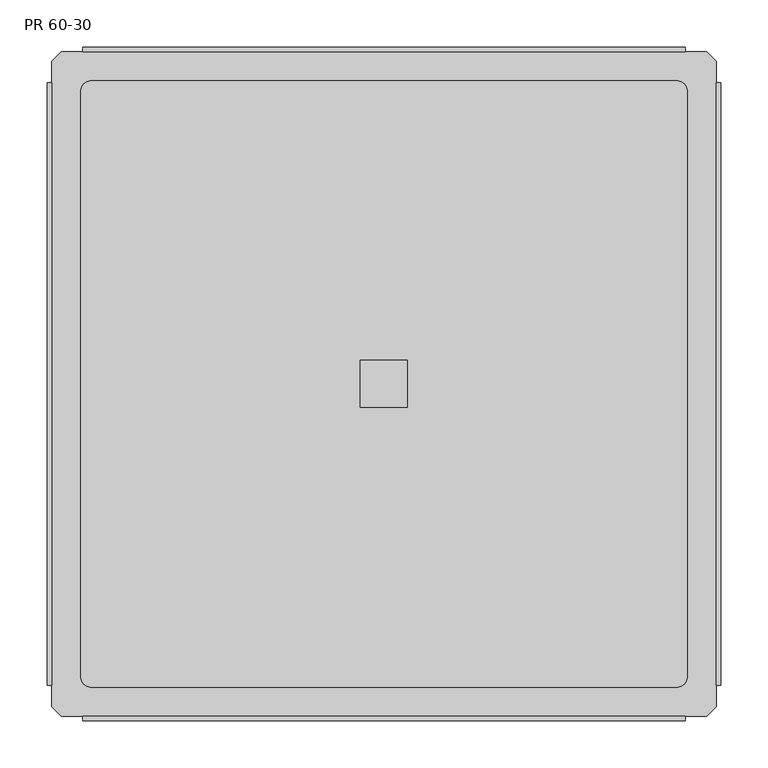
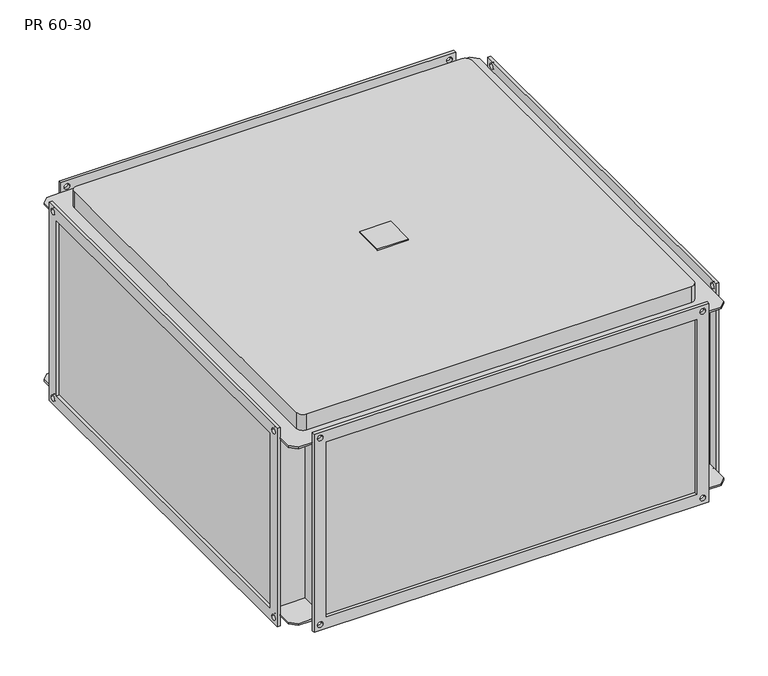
"""IFC4 building model written with IfcOpenShell, lengths in millimetres: proxy geometry, KORF_Рекуператор_Пластинчатый_PR : PR 60-30."""

from ifc_helpers import new_model, si_unit, point, frame, frame_2d, origin, place, context, project, spatial, polyline, circle_curve, trimmed, segment, composite_curve, outline, extrude, source, transform, mapped, element, save
from ifc_brep_helpers import plane_surface, cylinder_surface, revolved_surface, advanced_brep


def pr_60_30_fce1e4e2(model_context):
    return source(origin(), model_context, "Body", "SolidModel", [
        extrude(outline(polyline([(333.0, -25.0), (333.0, 25.0), (383.0, 25.0), (383.0, -25.0), (333.0, -25.0)])), frame((0.0, 0.0, 180.0), z_axis=(0.0, 0.0, 1.0), x_axis=(1.0, 0.0, 0.0)), (0.0, 0.0, 1.0), 2.0),
        advanced_brep(
        [(658.0, -353.0, -150.0), (658.0, -353.0, 150.0), (58.0, -353.0, 150.0), (58.0, -353.0, -150.0), (658.0, 353.0, 150.0), (658.0, 353.0, -150.0), (58.0, 353.0, -150.0), (58.0, 353.0, 150.0), (15.0, 353.0, 153.0), (5.0, 343.0, 153.0), (5.0, -343.0, 153.0), (15.0, -353.0, 153.0), (38.0, -353.0, 153.0), (678.0, -353.0, 153.0), (701.0, -353.0, 153.0), (711.0, -343.0, 153.0), (711.0, 343.0, 153.0), (701.0, 353.0, 153.0), (678.0, 353.0, 153.0), (38.0, 353.0, 153.0), (46.0, 322.0, 153.0), (670.0, 322.0, 153.0), (680.0, 312.0, 153.0), (680.0, -312.0, 153.0), (670.0, -322.0, 153.0), (46.0, -322.0, 153.0), (36.0, -312.0, 153.0), (36.0, 312.0, 153.0), (55.0, -353.0, 150.0), (55.0, -303.0, 150.0), (55.0, -303.0, -150.0), (55.0, -353.0, -150.0), (55.0, 303.0, 150.0), (55.0, 353.0, 150.0), (55.0, 353.0, -150.0), (55.0, 303.0, -150.0), (5.0, 343.0, -153.0), (15.0, 353.0, -153.0), (38.0, 353.0, -153.0), (678.0, 353.0, -153.0), (701.0, 353.0, -153.0), (711.0, 343.0, -153.0), (711.0, -343.0, -153.0), (701.0, -353.0, -153.0), (678.0, -353.0, -153.0), (38.0, -353.0, -153.0), (15.0, -353.0, -153.0), (5.0, -343.0, -153.0), (661.0, -303.0, 150.0), (661.0, -353.0, 150.0), (661.0, -353.0, -150.0), (661.0, -303.0, -150.0), (661.0, 353.0, 150.0), (661.0, 303.0, 150.0), (661.0, 303.0, -150.0), (661.0, 353.0, -150.0), (711.0, 303.0, 150.0), (711.0, 343.0, 150.0), (711.0, -343.0, 150.0), (711.0, -303.0, 150.0), (711.0, -303.0, -150.0), (711.0, -343.0, -150.0), (711.0, 343.0, -150.0), (711.0, 303.0, -150.0), (5.0, 343.0, 150.0), (5.0, 303.0, 150.0), (5.0, 303.0, -150.0), (5.0, 343.0, -150.0), (5.0, -343.0, -150.0), (5.0, -303.0, -150.0), (5.0, -303.0, 150.0), (5.0, -343.0, 150.0), (678.0, 358.0, 170.0), (678.0, 358.0, -170.0), (38.0, 358.0, -170.0), (38.0, 358.0, 170.0), (658.0, 358.0, 150.0), (58.0, 358.0, 150.0), (58.0, 358.0, -150.0), (658.0, 358.0, -150.0), (43.5, 358.0, 160.0), (52.5, 358.0, 160.0), (663.5, 358.0, 160.0), (672.5, 358.0, 160.0), (663.5, 358.0, -160.0), (672.5, 358.0, -160.0), (43.5, 358.0, -160.0), (52.5, 358.0, -160.0), (678.0, 353.0, 170.0), (38.0, 353.0, 170.0), (43.5, 353.0, 160.0), (52.5, 353.0, 160.0), (663.5, 353.0, 160.0), (672.5, 353.0, 160.0), (38.0, 353.0, -170.0), (678.0, 353.0, -170.0), (663.5, 353.0, -160.0), (672.5, 353.0, -160.0), (43.5, 353.0, -160.0), (52.5, 353.0, -160.0), (38.0, 353.0, 150.0), (38.0, 353.0, -150.0), (678.0, 353.0, 150.0), (678.0, 353.0, -150.0), (678.0, -358.0, 170.0), (38.0, -358.0, 170.0), (38.0, -358.0, -170.0), (678.0, -358.0, -170.0), (658.0, -358.0, 150.0), (658.0, -358.0, -150.0), (58.0, -358.0, -150.0), (58.0, -358.0, 150.0), (663.5, -358.0, 160.0), (672.5, -358.0, 160.0), (663.5, -358.0, -160.0), (672.5, -358.0, -160.0), (43.5, -358.0, 160.0), (52.5, -358.0, 160.0), (43.5, -358.0, -160.0), (52.5, -358.0, -160.0), (678.0, -353.0, -170.0), (38.0, -353.0, -170.0), (663.5, -353.0, -160.0), (672.5, -353.0, -160.0), (43.5, -353.0, -160.0), (52.5, -353.0, -160.0), (38.0, -353.0, 170.0), (678.0, -353.0, 170.0), (663.5, -353.0, 160.0), (672.5, -353.0, 160.0), (43.5, -353.0, 160.0), (52.5, -353.0, 160.0), (38.0, -353.0, 150.0), (38.0, -353.0, -150.0), (678.0, -353.0, 150.0), (678.0, -353.0, -150.0), (701.0, -353.0, 150.0), (15.0, 353.0, 150.0), (701.0, 353.0, 150.0), (15.0, -353.0, 150.0), (701.0, 353.0, -150.0), (15.0, -353.0, -150.0), (15.0, 353.0, -150.0), (701.0, -353.0, -150.0), (670.0, 322.0, 180.0), (46.0, 322.0, 180.0), (36.0, 312.0, 180.0), (36.0, -312.0, 180.0), (46.0, -322.0, 180.0), (670.0, -322.0, 180.0), (680.0, -312.0, 180.0), (680.0, 312.0, 180.0)],
        [
            (0, 1),
            (1, 2),
            (2, 3),
            (3, 0),
            (4, 5),
            (5, 6),
            (6, 7),
            (7, 4),
            (8, 9),
            (9, 10),
            (10, 11),
            (11, 12),
            (12, 13),
            (13, 14),
            (14, 15),
            (15, 16),
            (16, 17),
            (17, 18),
            (18, 19),
            (19, 8),
            (20, 21),
            (21, 22, circle_curve(frame((670.0, 312.0, 153.0), z_axis=(0.0, 0.0, -1.0), x_axis=(1.0, 0.0, 0.0)), 10.0)),
            (22, 23),
            (23, 24, circle_curve(frame((670.0, -312.0, 153.0), z_axis=(0.0, 0.0, -1.0), x_axis=(1.0, 0.0, 0.0)), 10.0)),
            (24, 25),
            (25, 26, circle_curve(frame((46.0, -312.0, 153.0), z_axis=(0.0, 0.0, -1.0), x_axis=(1.0, 0.0, 0.0)), 10.0)),
            (26, 27),
            (27, 20, circle_curve(frame((46.0, 312.0, 153.0), z_axis=(0.0, 0.0, -1.0), x_axis=(1.0, 0.0, 0.0)), 10.0)),
            (28, 29),
            (29, 30),
            (30, 31),
            (31, 28),
            (32, 33),
            (33, 34),
            (34, 35),
            (35, 32),
            (36, 37),
            (37, 38),
            (38, 39),
            (39, 40),
            (40, 41),
            (41, 42),
            (42, 43),
            (43, 44),
            (44, 45),
            (45, 46),
            (46, 47),
            (47, 36),
            (48, 49),
            (49, 50),
            (50, 51),
            (51, 48),
            (52, 53),
            (53, 54),
            (54, 55),
            (55, 52),
            (56, 57),
            (57, 16),
            (15, 58),
            (58, 59),
            (59, 60),
            (60, 61),
            (61, 42),
            (41, 62),
            (62, 63),
            (63, 56),
            (64, 65),
            (65, 66),
            (66, 67),
            (67, 36),
            (47, 68),
            (68, 69),
            (69, 70),
            (70, 71),
            (71, 10),
            (9, 64),
            (29, 70),
            (69, 30),
            (59, 48),
            (51, 60),
            (65, 32),
            (35, 66),
            (53, 56),
            (63, 54),
            (72, 73),
            (73, 74),
            (74, 75),
            (75, 72),
            (76, 77),
            (77, 78),
            (78, 79),
            (79, 76),
            (80, 81, circle_curve(frame((48.0, 358.0, 160.0), z_axis=(0.0, -1.0, 0.0), x_axis=(1.0, 0.0, 0.0)), 4.5)),
            (81, 80, circle_curve(frame((48.0, 358.0, 160.0), z_axis=(0.0, -1.0, 0.0), x_axis=(1.0, 0.0, 0.0)), 4.5)),
            (82, 83, circle_curve(frame((668.0, 358.0, 160.0), z_axis=(0.0, -1.0, 0.0), x_axis=(1.0, 0.0, 0.0)), 4.5)),
            (83, 82, circle_curve(frame((668.0, 358.0, 160.0), z_axis=(0.0, -1.0, 0.0), x_axis=(1.0, 0.0, 0.0)), 4.5)),
            (84, 85, circle_curve(frame((668.0, 358.0, -160.0), z_axis=(0.0, -1.0, 0.0), x_axis=(1.0, 0.0, 0.0)), 4.5)),
            (85, 84, circle_curve(frame((668.0, 358.0, -160.0), z_axis=(0.0, -1.0, 0.0), x_axis=(1.0, 0.0, 0.0)), 4.5)),
            (86, 87, circle_curve(frame((48.0, 358.0, -160.0), z_axis=(0.0, -1.0, 0.0), x_axis=(1.0, 0.0, 0.0)), 4.5)),
            (87, 86, circle_curve(frame((48.0, 358.0, -160.0), z_axis=(0.0, -1.0, 0.0), x_axis=(1.0, 0.0, 0.0)), 4.5)),
            (88, 89),
            (89, 19),
            (18, 88),
            (90, 91, circle_curve(frame((48.0, 353.0, 160.0), z_axis=(0.0, 1.0, 0.0), x_axis=(1.0, 0.0, 0.0)), 4.5)),
            (91, 90, circle_curve(frame((48.0, 353.0, 160.0), z_axis=(0.0, 1.0, 0.0), x_axis=(1.0, 0.0, 0.0)), 4.5)),
            (92, 93, circle_curve(frame((668.0, 353.0, 160.0), z_axis=(0.0, 1.0, 0.0), x_axis=(1.0, 0.0, 0.0)), 4.5)),
            (93, 92, circle_curve(frame((668.0, 353.0, 160.0), z_axis=(0.0, 1.0, 0.0), x_axis=(1.0, 0.0, 0.0)), 4.5)),
            (94, 95),
            (95, 39),
            (38, 94),
            (96, 97, circle_curve(frame((668.0, 353.0, -160.0), z_axis=(0.0, 1.0, 0.0), x_axis=(1.0, 0.0, 0.0)), 4.5)),
            (97, 96, circle_curve(frame((668.0, 353.0, -160.0), z_axis=(0.0, 1.0, 0.0), x_axis=(1.0, 0.0, 0.0)), 4.5)),
            (98, 99, circle_curve(frame((48.0, 353.0, -160.0), z_axis=(0.0, 1.0, 0.0), x_axis=(1.0, 0.0, 0.0)), 4.5)),
            (99, 98, circle_curve(frame((48.0, 353.0, -160.0), z_axis=(0.0, 1.0, 0.0), x_axis=(1.0, 0.0, 0.0)), 4.5)),
            (33, 100),
            (100, 101),
            (101, 34),
            (102, 52),
            (55, 103),
            (103, 102),
            (75, 89),
            (88, 72),
            (74, 94),
            (38, 101),
            (100, 19),
            (73, 95),
            (18, 102),
            (103, 39),
            (79, 5),
            (4, 76),
            (78, 6),
            (77, 7),
            (104, 105),
            (105, 106),
            (106, 107),
            (107, 104),
            (108, 109),
            (109, 110),
            (110, 111),
            (111, 108),
            (112, 113, circle_curve(frame((668.0, -358.0, 160.0), z_axis=(0.0, 1.0, 0.0), x_axis=(1.0, 0.0, 0.0)), 4.5)),
            (113, 112, circle_curve(frame((668.0, -358.0, 160.0), z_axis=(0.0, 1.0, 0.0), x_axis=(1.0, 0.0, 0.0)), 4.5)),
            (114, 115, circle_curve(frame((668.0, -358.0, -160.0), z_axis=(0.0, 1.0, 0.0), x_axis=(1.0, 0.0, 0.0)), 4.5)),
            (115, 114, circle_curve(frame((668.0, -358.0, -160.0), z_axis=(0.0, 1.0, 0.0), x_axis=(1.0, 0.0, 0.0)), 4.5)),
            (116, 117, circle_curve(frame((48.0, -358.0, 160.0), z_axis=(0.0, 1.0, 0.0), x_axis=(1.0, 0.0, 0.0)), 4.5)),
            (117, 116, circle_curve(frame((48.0, -358.0, 160.0), z_axis=(0.0, 1.0, 0.0), x_axis=(1.0, 0.0, 0.0)), 4.5)),
            (118, 119, circle_curve(frame((48.0, -358.0, -160.0), z_axis=(0.0, 1.0, 0.0), x_axis=(1.0, 0.0, 0.0)), 4.5)),
            (119, 118, circle_curve(frame((48.0, -358.0, -160.0), z_axis=(0.0, 1.0, 0.0), x_axis=(1.0, 0.0, 0.0)), 4.5)),
            (120, 121),
            (121, 45),
            (44, 120),
            (122, 123, circle_curve(frame((668.0, -353.0, -160.0), z_axis=(0.0, -1.0, 0.0), x_axis=(1.0, 0.0, 0.0)), 4.5)),
            (123, 122, circle_curve(frame((668.0, -353.0, -160.0), z_axis=(0.0, -1.0, 0.0), x_axis=(1.0, 0.0, 0.0)), 4.5)),
            (124, 125, circle_curve(frame((48.0, -353.0, -160.0), z_axis=(0.0, -1.0, 0.0), x_axis=(1.0, 0.0, 0.0)), 4.5)),
            (125, 124, circle_curve(frame((48.0, -353.0, -160.0), z_axis=(0.0, -1.0, 0.0), x_axis=(1.0, 0.0, 0.0)), 4.5)),
            (126, 127),
            (127, 13),
            (12, 126),
            (128, 129, circle_curve(frame((668.0, -353.0, 160.0), z_axis=(0.0, -1.0, 0.0), x_axis=(1.0, 0.0, 0.0)), 4.5)),
            (129, 128, circle_curve(frame((668.0, -353.0, 160.0), z_axis=(0.0, -1.0, 0.0), x_axis=(1.0, 0.0, 0.0)), 4.5)),
            (130, 131, circle_curve(frame((48.0, -353.0, 160.0), z_axis=(0.0, -1.0, 0.0), x_axis=(1.0, 0.0, 0.0)), 4.5)),
            (131, 130, circle_curve(frame((48.0, -353.0, 160.0), z_axis=(0.0, -1.0, 0.0), x_axis=(1.0, 0.0, 0.0)), 4.5)),
            (132, 28),
            (31, 133),
            (133, 132),
            (49, 134),
            (134, 135),
            (135, 50),
            (104, 127),
            (126, 105),
            (12, 132),
            (133, 45),
            (121, 106),
            (120, 107),
            (44, 135),
            (134, 13),
            (108, 1),
            (0, 109),
            (3, 110),
            (2, 111),
            (81, 91),
            (90, 80),
            (83, 93),
            (92, 82),
            (85, 97),
            (96, 84),
            (87, 99),
            (98, 86),
            (112, 128),
            (129, 113),
            (114, 122),
            (123, 115),
            (116, 130),
            (131, 117),
            (118, 124),
            (125, 119),
            (58, 136),
            (136, 134),
            (64, 137),
            (137, 100),
            (138, 57),
            (102, 138),
            (139, 71),
            (132, 139),
            (137, 8),
            (138, 17),
            (139, 11),
            (136, 14),
            (62, 140),
            (140, 103),
            (68, 141),
            (141, 133),
            (142, 67),
            (101, 142),
            (143, 61),
            (135, 143),
            (37, 142),
            (40, 140),
            (46, 141),
            (43, 143),
            (144, 145),
            (145, 146, circle_curve(frame((46.0, 312.0, 180.0), z_axis=(0.0, 0.0, 1.0), x_axis=(1.0, 0.0, 0.0)), 10.0)),
            (146, 147),
            (147, 148, circle_curve(frame((46.0, -312.0, 180.0), z_axis=(0.0, 0.0, 1.0), x_axis=(1.0, 0.0, 0.0)), 10.0)),
            (148, 149),
            (149, 150, circle_curve(frame((670.0, -312.0, 180.0), z_axis=(0.0, 0.0, 1.0), x_axis=(1.0, 0.0, 0.0)), 10.0)),
            (150, 151),
            (151, 144, circle_curve(frame((670.0, 312.0, 180.0), z_axis=(0.0, 0.0, 1.0), x_axis=(1.0, 0.0, 0.0)), 10.0)),
            (144, 21),
            (20, 145),
            (27, 146),
            (26, 147),
            (25, 148),
            (24, 149),
            (23, 150),
            (22, 151),
        ],
        [
            plane_surface(frame((55.0, -353.0, 153.0), z_axis=(0.0, -1.0, 0.0), x_axis=(-1.0, 0.0, 0.0))),
            plane_surface(frame((55.0, 353.0, 153.0), z_axis=(0.0, 1.0, 0.0), x_axis=(1.0, 0.0, 0.0))),
            plane_surface(frame((661.0, -353.0, 153.0), z_axis=(0.0, 0.0, 1.0), x_axis=(0.0, 1.0, 0.0))),
            plane_surface(frame((55.0, -353.0, 153.0), z_axis=(-1.0, 0.0, 0.0), x_axis=(0.0, 1.0, 0.0))),
            plane_surface(frame((55.0, -353.0, -153.0), z_axis=(0.0, 0.0, -1.0), x_axis=(0.0, 1.0, 0.0))),
            plane_surface(frame((661.0, -353.0, -153.0), z_axis=(1.0, 0.0, 0.0), x_axis=(0.0, 1.0, 0.0))),
            plane_surface(frame((711.0, -303.0, 153.0), z_axis=(1.0, 0.0, 0.0), x_axis=(0.0, 0.0, -1.0))),
            plane_surface(frame((5.0, -303.0, 153.0), z_axis=(-1.0, 0.0, 0.0), x_axis=(0.0, 0.0, 1.0))),
            plane_surface(frame((711.0, -303.0, 153.0), z_axis=(0.0, -1.0, 0.0), x_axis=(-1.0, 0.0, 0.0))),
            plane_surface(frame((711.0, 303.0, -153.0), z_axis=(0.0, 1.0, 0.0), x_axis=(-1.0, 0.0, 0.0))),
            plane_surface(frame((38.0, 358.0, 170.0), z_axis=(0.0, 1.0, 0.0), x_axis=(1.0, 0.0, 0.0))),
            plane_surface(frame((38.0, 353.0, 170.0), z_axis=(0.0, -1.0, 0.0), x_axis=(-1.0, 0.0, 0.0))),
            plane_surface(frame((678.0, 353.0, 170.0), z_axis=(0.0, 0.0, 1.0), x_axis=(0.0, 1.0, 0.0))),
            plane_surface(frame((38.0, 353.0, 170.0), z_axis=(-1.0, 0.0, 0.0), x_axis=(0.0, 1.0, 0.0))),
            plane_surface(frame((38.0, 353.0, -170.0), z_axis=(0.0, 0.0, -1.0), x_axis=(0.0, 1.0, 0.0))),
            plane_surface(frame((678.0, 353.0, -170.0), z_axis=(1.0, 0.0, 0.0), x_axis=(0.0, 1.0, 0.0))),
            plane_surface(frame((658.0, 353.0, 150.0), z_axis=(-1.0, 0.0, 0.0), x_axis=(0.0, 1.0, 0.0))),
            plane_surface(frame((658.0, 353.0, -150.0), z_axis=(0.0, 0.0, 1.0), x_axis=(0.0, 1.0, 0.0))),
            plane_surface(frame((58.0, 353.0, -150.0), z_axis=(1.0, 0.0, 0.0), x_axis=(0.0, 1.0, 0.0))),
            plane_surface(frame((58.0, 353.0, 150.0), z_axis=(0.0, 0.0, -1.0), x_axis=(0.0, 1.0, 0.0))),
            plane_surface(frame((38.0, -358.0, 170.0), z_axis=(0.0, -1.0, 0.0), x_axis=(-1.0, 0.0, 0.0))),
            plane_surface(frame((38.0, -353.0, 170.0), z_axis=(0.0, 1.0, 0.0), x_axis=(1.0, 0.0, 0.0))),
            plane_surface(frame((678.0, -358.0, 170.0), z_axis=(0.0, 0.0, 1.0), x_axis=(0.0, 1.0, 0.0))),
            plane_surface(frame((38.0, -358.0, 170.0), z_axis=(-1.0, 0.0, 0.0), x_axis=(0.0, 1.0, 0.0))),
            plane_surface(frame((38.0, -358.0, -170.0), z_axis=(0.0, 0.0, -1.0), x_axis=(0.0, 1.0, 0.0))),
            plane_surface(frame((678.0, -358.0, -170.0), z_axis=(1.0, 0.0, 0.0), x_axis=(0.0, 1.0, 0.0))),
            plane_surface(frame((658.0, -358.0, 150.0), z_axis=(-1.0, 0.0, 0.0), x_axis=(0.0, 1.0, 0.0))),
            plane_surface(frame((658.0, -358.0, -150.0), z_axis=(0.0, 0.0, 1.0), x_axis=(0.0, 1.0, 0.0))),
            plane_surface(frame((58.0, -358.0, -150.0), z_axis=(1.0, 0.0, 0.0), x_axis=(0.0, 1.0, 0.0))),
            plane_surface(frame((58.0, -358.0, 150.0), z_axis=(0.0, 0.0, -1.0), x_axis=(0.0, 1.0, 0.0))),
            revolved_surface(polyline([(52.5, 358.0, 160.0), (52.5, 353.0, 160.0)]), (48.0, 0.0, 160.0), (0.0, 1.0, 0.0)),
            revolved_surface(polyline([(672.5, 358.0, 160.0), (672.5, 353.0, 160.0)]), (668.0, 0.0, 160.0), (0.0, 1.0, 0.0)),
            revolved_surface(polyline([(672.5, 358.0, -160.0), (672.5, 353.0, -160.0)]), (668.0, 0.0, -160.0), (0.0, 1.0, 0.0)),
            revolved_surface(polyline([(52.5, 358.0, -160.0), (52.5, 353.0, -160.0)]), (48.0, 0.0, -160.0), (0.0, 1.0, 0.0)),
            revolved_surface(polyline([(672.5, -353.0, 160.0), (672.5, -358.0, 160.0)]), (668.0, 0.0, 160.0), (0.0, 1.0, 0.0)),
            revolved_surface(polyline([(672.5, -353.0, -160.0), (672.5, -358.0, -160.0)]), (668.0, 0.0, -160.0), (0.0, 1.0, 0.0)),
            revolved_surface(polyline([(52.5, -353.0, 160.0), (52.5, -358.0, 160.0)]), (48.0, 0.0, 160.0), (0.0, 1.0, 0.0)),
            revolved_surface(polyline([(52.5, -353.0, -160.0), (52.5, -358.0, -160.0)]), (48.0, 0.0, -160.0), (0.0, 1.0, 0.0)),
            plane_surface(frame((55.0, 303.0, 150.0), z_axis=(0.0, 0.0, -1.0), x_axis=(0.0, -1.0, 0.0))),
            plane_surface(frame((55.0, 353.0, 153.0), z_axis=(0.0, 1.0, 0.0), x_axis=(0.0, 0.0, -1.0))),
            plane_surface(frame((15.0, 353.0, 153.0), z_axis=(-0.7071067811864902, 0.707106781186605, 0.0), x_axis=(0.0, 0.0, -1.0))),
            plane_surface(frame((711.0, 343.0, 153.0), z_axis=(0.7071067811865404, 0.7071067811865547, 0.0), x_axis=(0.0, 0.0, -1.0))),
            plane_surface(frame((701.0, 353.0, 153.0), z_axis=(0.0, 1.0, 0.0), x_axis=(0.0, 0.0, -1.0))),
            plane_surface(frame((5.0, -343.0, 153.0), z_axis=(-0.7071067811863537, -0.7071067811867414, 0.0), x_axis=(0.0, 0.0, -1.0))),
            plane_surface(frame((15.0, -353.0, 153.0), z_axis=(0.0, -1.0, 0.0), x_axis=(0.0, 0.0, -1.0))),
            plane_surface(frame((661.0, -353.0, 153.0), z_axis=(0.0, -1.0, 0.0), x_axis=(0.0, 0.0, -1.0))),
            plane_surface(frame((701.0, -353.0, 153.0), z_axis=(0.707106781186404, -0.7071067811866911, 0.0), x_axis=(0.0, 0.0, -1.0))),
            plane_surface(frame((55.0, 303.0, -150.0), z_axis=(0.0, 0.0, 1.0), x_axis=(0.0, 1.0, 0.0))),
            plane_surface(frame((55.0, 353.0, -150.0), z_axis=(0.0, 1.0, 0.0), x_axis=(0.0, 0.0, -1.0))),
            plane_surface(frame((15.0, 353.0, -150.0), z_axis=(-0.7071067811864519, 0.7071067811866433, 0.0), x_axis=(0.0, 0.0, -1.0))),
            plane_surface(frame((711.0, 343.0, -150.0), z_axis=(0.7071067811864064, 0.7071067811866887, 0.0), x_axis=(0.0, 0.0, -1.0))),
            plane_surface(frame((701.0, 353.0, -150.0), z_axis=(0.0, 1.0, 0.0), x_axis=(0.0, 0.0, -1.0))),
            plane_surface(frame((5.0, -343.0, -150.0), z_axis=(-0.7071067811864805, -0.7071067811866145, 0.0), x_axis=(0.0, 0.0, -1.0))),
            plane_surface(frame((15.0, -353.0, -150.0), z_axis=(0.0, -1.0, 0.0), x_axis=(0.0, 0.0, -1.0))),
            plane_surface(frame((661.0, -353.0, -150.0), z_axis=(0.0, -1.0, 0.0), x_axis=(0.0, 0.0, -1.0))),
            plane_surface(frame((701.0, -353.0, -150.0), z_axis=(0.7071067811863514, -0.7071067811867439, 0.0), x_axis=(0.0, 0.0, -1.0))),
            plane_surface(frame((46.0, 322.0, 180.0), z_axis=(0.0, 0.0, 1.0), x_axis=(-1.0, 0.0, 0.0))),
            plane_surface(frame((670.0, 322.0, 180.0), z_axis=(0.0, 1.0, 0.0), x_axis=(0.0, 0.0, -1.0))),
            cylinder_surface(frame((46.0, 312.0, 153.0), z_axis=(0.0, 0.0, 1.0), x_axis=(1.0, 0.0, 0.0)), 10.0),
            plane_surface(frame((36.0, 312.0, 180.0), z_axis=(-1.0, 0.0, 0.0), x_axis=(0.0, 0.0, -1.0))),
            cylinder_surface(frame((46.0, -312.0, 153.0), z_axis=(0.0, 0.0, 1.0), x_axis=(1.0, 0.0, 0.0)), 10.0),
            plane_surface(frame((46.0, -322.0, 180.0), z_axis=(0.0, -1.0, 0.0), x_axis=(0.0, 0.0, -1.0))),
            cylinder_surface(frame((670.0, -312.0, 153.0), z_axis=(0.0, 0.0, 1.0), x_axis=(1.0, 0.0, 0.0)), 10.0),
            plane_surface(frame((680.0, -312.0, 180.0), z_axis=(1.0, 0.0, 0.0), x_axis=(0.0, 0.0, -1.0))),
            cylinder_surface(frame((670.0, 312.0, 153.0), z_axis=(0.0, 0.0, 1.0), x_axis=(1.0, 0.0, 0.0)), 10.0),
        ],
        [
            (0, [[1, 2, 3, 4]]),
            (1, [[5, 6, 7, 8]]),
            (2, [[9, 10, 11, 12, 13, 14, 15, 16, 17, 18, 19, 20], [21, 22, 23, 24, 25, 26, 27, 28]]),
            (3, [[29, 30, 31, 32]]),
            (3, [[33, 34, 35, 36]]),
            (4, [[37, 38, 39, 40, 41, 42, 43, 44, 45, 46, 47, 48]]),
            (5, [[49, 50, 51, 52]]),
            (5, [[53, 54, 55, 56]]),
            (6, [[57, 58, -16, 59, 60, 61, 62, 63, -42, 64, 65, 66]]),
            (7, [[67, 68, 69, 70, -48, 71, 72, 73, 74, 75, -10, 76]]),
            (8, [[77, -73, 78, -30]]),
            (8, [[79, -52, 80, -61]]),
            (9, [[81, -36, 82, -68]]),
            (9, [[83, -66, 84, -54]]),
            (10, [[85, 86, 87, 88], [89, 90, 91, 92], [93, 94], [95, 96], [97, 98], [99, 100]]),
            (11, [[101, 102, -19, 103], [104, 105], [106, 107]]),
            (11, [[108, 109, -39, 110], [111, 112], [113, 114]]),
            (11, [[115, 116, 117, -34]]),
            (11, [[118, -56, 119, 120]]),
            (12, [[-88, 121, -101, 122]]),
            (13, [[-87, 123, -110, 124, -116, 125, -102, -121]]),
            (14, [[-86, 126, -108, -123]]),
            (15, [[-85, -122, -103, 127, -120, 128, -109, -126]]),
            (16, [[-92, 129, -5, 130]]),
            (17, [[-91, 131, -6, -129]]),
            (18, [[-90, 132, -7, -131]]),
            (19, [[-89, -130, -8, -132]]),
            (20, [[133, 134, 135, 136], [137, 138, 139, 140], [141, 142], [143, 144], [145, 146], [147, 148]]),
            (21, [[149, 150, -45, 151], [152, 153], [154, 155]]),
            (21, [[156, 157, -13, 158], [159, 160], [161, 162]]),
            (21, [[163, -32, 164, 165]]),
            (21, [[166, 167, 168, -50]]),
            (22, [[-133, 169, -156, 170]]),
            (23, [[-134, -170, -158, 171, -165, 172, -150, 173]]),
            (24, [[-135, -173, -149, 174]]),
            (25, [[-136, -174, -151, 175, -167, 176, -157, -169]]),
            (26, [[-137, 177, -1, 178]]),
            (27, [[-138, -178, -4, 179]]),
            (28, [[-139, -179, -3, 180]]),
            (29, [[-140, -180, -2, -177]]),
            (30, [[-94, 181, -104, 182]]),
            (30, [[-93, -182, -105, -181]]),
            (31, [[-96, 183, -106, 184]]),
            (31, [[-95, -184, -107, -183]]),
            (32, [[-98, 185, -111, 186]]),
            (32, [[-97, -186, -112, -185]]),
            (33, [[-100, 187, -113, 188]]),
            (33, [[-99, -188, -114, -187]]),
            (34, [[-141, 189, -160, 190]]),
            (34, [[-142, -190, -159, -189]]),
            (35, [[-143, 191, -153, 192]]),
            (35, [[-144, -192, -152, -191]]),
            (36, [[-145, 193, -162, 194]]),
            (36, [[-146, -194, -161, -193]]),
            (37, [[-147, 195, -155, 196]]),
            (37, [[-148, -196, -154, -195]]),
            (38, [[-60, 197, 198, -166, -49, -79]]),
            (38, [[-67, 199, 200, -115, -33, -81]]),
            (38, [[201, -57, -83, -53, -118, 202]]),
            (38, [[203, -74, -77, -29, -163, 204]]),
            (39, [[205, -20, -125, -200]]),
            (40, [[-199, -76, -9, -205]]),
            (41, [[-201, 206, -17, -58]]),
            (42, [[-206, -202, -127, -18]]),
            (43, [[-203, 207, -11, -75]]),
            (44, [[-207, -204, -171, -12]]),
            (45, [[208, -14, -176, -198]]),
            (46, [[-197, -59, -15, -208]]),
            (47, [[-65, 209, 210, -119, -55, -84]]),
            (47, [[-72, 211, 212, -164, -31, -78]]),
            (47, [[213, -69, -82, -35, -117, 214]]),
            (47, [[215, -62, -80, -51, -168, 216]]),
            (48, [[217, -214, -124, -38]]),
            (49, [[-213, -217, -37, -70]]),
            (50, [[-209, -64, -41, 218]]),
            (51, [[-218, -40, -128, -210]]),
            (52, [[-211, -71, -47, 219]]),
            (53, [[-219, -46, -172, -212]]),
            (54, [[220, -216, -175, -44]]),
            (55, [[-215, -220, -43, -63]]),
            (56, [[221, 222, 223, 224, 225, 226, 227, 228]]),
            (57, [[-221, 229, -21, 230]]),
            (58, [[-222, -230, -28, 231]]),
            (59, [[-223, -231, -27, 232]]),
            (60, [[-224, -232, -26, 233]]),
            (61, [[-225, -233, -25, 234]]),
            (62, [[-226, -234, -24, 235]]),
            (63, [[-227, -235, -23, 236]]),
            (64, [[-228, -236, -22, -229]]),
        ],
    ),
        extrude(outline(polyline([(-320.0, 170.0), (320.0, 170.0), (320.0, -170.0), (-320.0, -170.0), (-320.0, 170.0)]), holes=[polyline([(-300.0, 150.0), (-300.0, -150.0), (300.0, -150.0), (300.0, 150.0), (-300.0, 150.0)]), composite_curve([segment(trimmed(circle_curve(frame_2d((310.0, 160.0)), 4.5), [point((305.5, 160.0))], [point((314.5, 160.0))], True, "CARTESIAN"), True, "CONTINUOUS"), segment(trimmed(circle_curve(frame_2d((310.0, 160.0)), 4.5), [point((314.5, 160.0))], [point((305.5, 160.0))], True, "CARTESIAN"), True, "CONTINUOUS")], self_intersect=False), composite_curve([segment(trimmed(circle_curve(frame_2d((-310.0, 160.0)), 4.5), [point((-314.5, 160.0))], [point((-305.5, 160.0))], True, "CARTESIAN"), True, "CONTINUOUS"), segment(trimmed(circle_curve(frame_2d((-310.0, 160.0)), 4.5), [point((-305.5, 160.0))], [point((-314.5, 160.0))], True, "CARTESIAN"), True, "CONTINUOUS")], self_intersect=False), composite_curve([segment(trimmed(circle_curve(frame_2d((-310.0, -160.0)), 4.5), [point((-314.5, -160.0))], [point((-305.5, -160.0))], True, "CARTESIAN"), True, "CONTINUOUS"), segment(trimmed(circle_curve(frame_2d((-310.0, -160.0)), 4.5), [point((-305.5, -160.0))], [point((-314.5, -160.0))], True, "CARTESIAN"), True, "CONTINUOUS")], self_intersect=False), composite_curve([segment(trimmed(circle_curve(frame_2d((310.0, -160.0)), 4.5), [point((305.5, -160.0))], [point((314.5, -160.0))], True, "CARTESIAN"), True, "CONTINUOUS"), segment(trimmed(circle_curve(frame_2d((310.0, -160.0)), 4.5), [point((314.5, -160.0))], [point((305.5, -160.0))], True, "CARTESIAN"), True, "CONTINUOUS")], self_intersect=False)]), frame((711.0, 0.0, 0.0), z_axis=(1.0, 0.0, 0.0), x_axis=(0.0, 1.0, 0.0)), (0.0, 0.0, 1.0), 5.0),
        advanced_brep(
        [(0.0, -320.0, 170.0), (0.0, 320.0, 170.0), (0.0, 320.0, -170.0), (0.0, -320.0, -170.0), (0.0, -300.0, 150.0), (0.0, -300.0, -150.0), (0.0, 300.0, -150.0), (0.0, 300.0, 150.0), (0.0, 305.5, 160.0), (0.0, 314.5, 160.0), (0.0, -314.5, 160.0), (0.0, -305.5, 160.0), (0.0, -314.5, -160.0), (0.0, -305.5, -160.0), (0.0, 305.5, -160.0), (0.0, 314.5, -160.0), (5.0, -320.0, 170.0), (5.0, -320.0, -170.0), (5.0, 320.0, -170.0), (5.0, 320.0, 170.0), (5.0, 314.5, 160.0), (5.0, 305.5, 160.0), (5.0, -305.5, 160.0), (5.0, -314.5, 160.0), (5.0, -305.5, -160.0), (5.0, -314.5, -160.0), (5.0, 314.5, -160.0), (5.0, 305.5, -160.0), (5.0, -300.0, -150.0), (5.0, -300.0, 150.0), (5.0, 300.0, 150.0), (5.0, 300.0, -150.0), (5.0, 300.0, 150.0), (5.0, -300.0, 150.0), (5.0, 300.0, -150.0), (5.0, -300.0, -150.0), (711.0, -300.0, 150.0), (711.0, -300.0, -150.0), (711.0, 300.0, 150.0), (711.0, 300.0, -150.0)],
        [
            (0, 1),
            (1, 2),
            (2, 3),
            (3, 0),
            (4, 5),
            (5, 6),
            (6, 7),
            (7, 4),
            (8, 9, circle_curve(frame((0.0, 310.0, 160.0), z_axis=(1.0, 0.0, 0.0), x_axis=(0.0, 1.0, 0.0)), 4.5)),
            (9, 8, circle_curve(frame((0.0, 310.0, 160.0), z_axis=(1.0, 0.0, 0.0), x_axis=(0.0, 1.0, 0.0)), 4.5)),
            (10, 11, circle_curve(frame((0.0, -310.0, 160.0), z_axis=(1.0, 0.0, 0.0), x_axis=(0.0, 1.0, 0.0)), 4.5)),
            (11, 10, circle_curve(frame((0.0, -310.0, 160.0), z_axis=(1.0, 0.0, 0.0), x_axis=(0.0, 1.0, 0.0)), 4.5)),
            (12, 13, circle_curve(frame((0.0, -310.0, -160.0), z_axis=(1.0, 0.0, 0.0), x_axis=(0.0, 1.0, 0.0)), 4.5)),
            (13, 12, circle_curve(frame((0.0, -310.0, -160.0), z_axis=(1.0, 0.0, 0.0), x_axis=(0.0, 1.0, 0.0)), 4.5)),
            (14, 15, circle_curve(frame((0.0, 310.0, -160.0), z_axis=(1.0, 0.0, 0.0), x_axis=(0.0, 1.0, 0.0)), 4.5)),
            (15, 14, circle_curve(frame((0.0, 310.0, -160.0), z_axis=(1.0, 0.0, 0.0), x_axis=(0.0, 1.0, 0.0)), 4.5)),
            (16, 17),
            (17, 18),
            (18, 19),
            (19, 16),
            (20, 21, circle_curve(frame((5.0, 310.0, 160.0), z_axis=(-1.0, 0.0, 0.0), x_axis=(0.0, 1.0, 0.0)), 4.5)),
            (21, 20, circle_curve(frame((5.0, 310.0, 160.0), z_axis=(-1.0, 0.0, 0.0), x_axis=(0.0, 1.0, 0.0)), 4.5)),
            (22, 23, circle_curve(frame((5.0, -310.0, 160.0), z_axis=(-1.0, 0.0, 0.0), x_axis=(0.0, 1.0, 0.0)), 4.5)),
            (23, 22, circle_curve(frame((5.0, -310.0, 160.0), z_axis=(-1.0, 0.0, 0.0), x_axis=(0.0, 1.0, 0.0)), 4.5)),
            (24, 25, circle_curve(frame((5.0, -310.0, -160.0), z_axis=(-1.0, 0.0, 0.0), x_axis=(0.0, 1.0, 0.0)), 4.5)),
            (25, 24, circle_curve(frame((5.0, -310.0, -160.0), z_axis=(-1.0, 0.0, 0.0), x_axis=(0.0, 1.0, 0.0)), 4.5)),
            (26, 27, circle_curve(frame((5.0, 310.0, -160.0), z_axis=(-1.0, 0.0, 0.0), x_axis=(0.0, 1.0, 0.0)), 4.5)),
            (27, 26, circle_curve(frame((5.0, 310.0, -160.0), z_axis=(-1.0, 0.0, 0.0), x_axis=(0.0, 1.0, 0.0)), 4.5)),
            (28, 29),
            (29, 30),
            (30, 31),
            (31, 28),
            (3, 17),
            (16, 0),
            (2, 18),
            (1, 19),
            (7, 32),
            (32, 33),
            (33, 4),
            (6, 34),
            (34, 32),
            (5, 35),
            (35, 34),
            (33, 35),
            (20, 9),
            (8, 21),
            (22, 11),
            (10, 23),
            (24, 13),
            (12, 25),
            (26, 15),
            (14, 27),
            (36, 29),
            (28, 37),
            (37, 36),
            (38, 39),
            (39, 31),
            (30, 38),
            (36, 38),
            (39, 37),
        ],
        [
            plane_surface(frame((0.0, -320.0, 170.0), z_axis=(-1.0, 0.0, 0.0), x_axis=(0.0, 0.0, 1.0))),
            plane_surface(frame((5.0, -320.0, 170.0), z_axis=(1.0, 0.0, 0.0), x_axis=(0.0, 0.0, -1.0))),
            plane_surface(frame((5.0, -320.0, 170.0), z_axis=(0.0, -1.0, 0.0), x_axis=(-1.0, 0.0, 0.0))),
            plane_surface(frame((5.0, -320.0, -170.0), z_axis=(0.0, 0.0, -1.0), x_axis=(-1.0, 0.0, 0.0))),
            plane_surface(frame((5.0, 320.0, -170.0), z_axis=(0.0, 1.0, 0.0), x_axis=(-1.0, 0.0, 0.0))),
            plane_surface(frame((5.0, 320.0, 170.0), z_axis=(0.0, 0.0, 1.0), x_axis=(-1.0, 0.0, 0.0))),
            plane_surface(frame((5.0, -300.0, 150.0), z_axis=(0.0, 0.0, -1.0), x_axis=(-1.0, 0.0, 0.0))),
            plane_surface(frame((5.0, 300.0, 150.0), z_axis=(0.0, -1.0, 0.0), x_axis=(-1.0, 0.0, 0.0))),
            plane_surface(frame((5.0, 300.0, -150.0), z_axis=(0.0, 0.0, 1.0), x_axis=(-1.0, 0.0, 0.0))),
            plane_surface(frame((5.0, -300.0, -150.0), z_axis=(0.0, 1.0, 0.0), x_axis=(-1.0, 0.0, 0.0))),
            revolved_surface(polyline([(5.0, 314.5, 160.0), (0.0, 314.5, 160.0)]), (0.0, 310.0, 160.0), (1.0, 0.0, 0.0)),
            revolved_surface(polyline([(5.0, -305.5, 160.0), (0.0, -305.5, 160.0)]), (0.0, -310.0, 160.0), (1.0, 0.0, 0.0)),
            revolved_surface(polyline([(5.0, -305.5, -160.0), (0.0, -305.5, -160.0)]), (0.0, -310.0, -160.0), (1.0, 0.0, 0.0)),
            revolved_surface(polyline([(5.0, 314.5, -160.0), (0.0, 314.5, -160.0)]), (0.0, 310.0, -160.0), (1.0, 0.0, 0.0)),
            plane_surface(frame((5.0, -300.0, 150.0), z_axis=(0.0, -1.0, 0.0), x_axis=(-1.0, 0.0, 0.0))),
            plane_surface(frame((5.0, 300.0, 150.0), z_axis=(0.0, 1.0, 0.0), x_axis=(1.0, 0.0, 0.0))),
            plane_surface(frame((711.0, -300.0, 150.0), z_axis=(0.0, 0.0, 1.0), x_axis=(0.0, 1.0, 0.0))),
            plane_surface(frame((5.0, -300.0, 150.0), z_axis=(-1.0, 0.0, 0.0), x_axis=(0.0, 1.0, 0.0))),
            plane_surface(frame((5.0, -300.0, -150.0), z_axis=(0.0, 0.0, -1.0), x_axis=(0.0, 1.0, 0.0))),
            plane_surface(frame((711.0, -300.0, -150.0), z_axis=(1.0, 0.0, 0.0), x_axis=(0.0, 1.0, 0.0))),
        ],
        [
            (0, [[1, 2, 3, 4], [5, 6, 7, 8], [9, 10], [11, 12], [13, 14], [15, 16]]),
            (1, [[17, 18, 19, 20], [21, 22], [23, 24], [25, 26], [27, 28], [29, 30, 31, 32]]),
            (2, [[-4, 33, -17, 34]]),
            (3, [[-3, 35, -18, -33]]),
            (4, [[-2, 36, -19, -35]]),
            (5, [[-1, -34, -20, -36]]),
            (6, [[-8, 37, 38, 39]]),
            (7, [[-7, 40, 41, -37]]),
            (8, [[-6, 42, 43, -40]]),
            (9, [[-5, -39, 44, -42]]),
            (10, [[45, -9, 46, -21]]),
            (10, [[-45, -22, -46, -10]]),
            (11, [[47, -11, 48, -23]]),
            (11, [[-47, -24, -48, -12]]),
            (12, [[49, -13, 50, -25]]),
            (12, [[-49, -26, -50, -14]]),
            (13, [[51, -15, 52, -27]]),
            (13, [[-51, -28, -52, -16]]),
            (14, [[53, -29, 54, 55]]),
            (15, [[56, 57, -31, 58]]),
            (16, [[-53, 59, -58, -30]]),
            (17, [[-38, -41, -43, -44]]),
            (18, [[-54, -32, -57, 60]]),
            (19, [[-55, -60, -56, -59]]),
        ],
    ),
    ])


if __name__ == "__main__":
    model = new_model("IFC4")
    model_context = context("Model", 3, world=origin())
    ifc_project = project(units=[si_unit("LENGTHUNIT", "METRE", prefix="MILLI")], contexts=[model_context])
    site = spatial("IfcSite", under=ifc_project)
    building = spatial("IfcBuilding", under=site)
    placement = place(None, origin())
    pr_60_30_shape = pr_60_30_fce1e4e2(model_context)
    element("IfcBuildingElementProxy", 1, Name="KORF_Рекуператор_Пластинчатый_PR : PR 60-30", ObjectType="KORF_Рекуператор_Пластинчатый_PR : PR 60-30", at=placement, inside=building, context=model_context, shape_type="MappedRepresentation", body=[
        mapped(pr_60_30_shape, transform((0.0, 0.0, 0.0), x_axis=(1.0, 0.0, 0.0), y_axis=(0.0, 1.0, 0.0), z_axis=(0.0, 0.0, 1.0))),
    ])
    save(model, "model.ifc")
